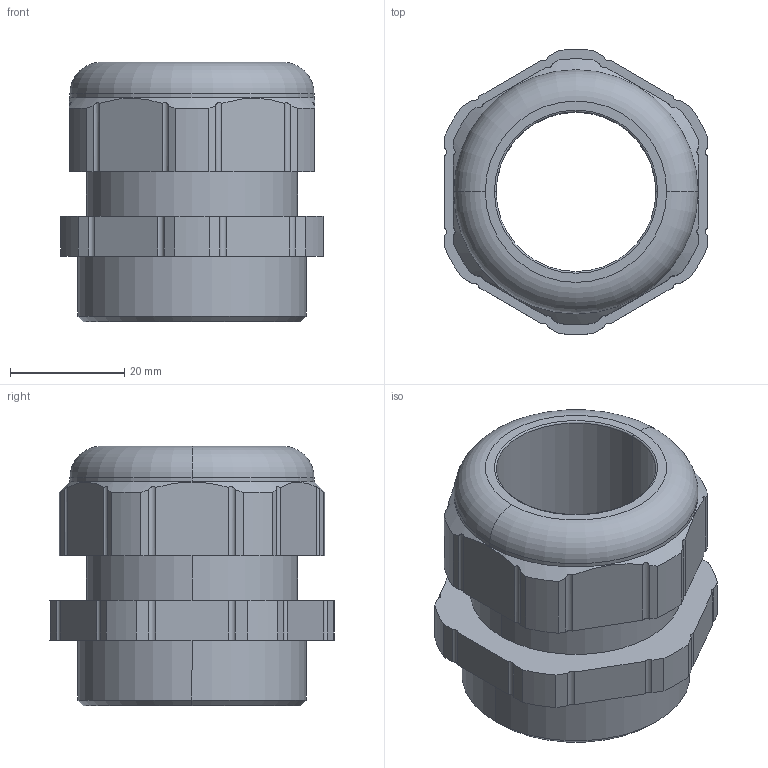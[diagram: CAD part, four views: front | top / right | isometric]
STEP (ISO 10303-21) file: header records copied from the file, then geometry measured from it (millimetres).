
FILE_DESCRIPTION (( 'STEP AP203' ), '1' );
FILE_NAME ('18M402428 T.STEP', '2006-08-18T09:20:51', ( ' ' ), ( '' ), 'SwSTEP 2.0', 'SolidWorks 2005278', '' );
FILE_SCHEMA (( 'CONFIG_CONTROL_DESIGN' ));
Length unit declared in the file: millimetre
Products named in the file (1): 18M402428 T
Bounding box: 46 x 49.96 x 45.5 mm (x, y, z)
Volume: 35807.7 mm3; surface area: 13041.2 mm2
Topology: 1 solids, 1 shells, 132 faces, 364 edges, 240 vertices
Faces by surface type: plane 78, cylinder 46, cone 4, torus 4
Entity records: 4423 total; most frequent: CARTESIAN_POINT 949, ORIENTED_EDGE 728, DIRECTION 688, EDGE_CURVE 364, VECTOR 242, LINE 242, VERTEX_POINT 240, AXIS2_PLACEMENT_3D 223
